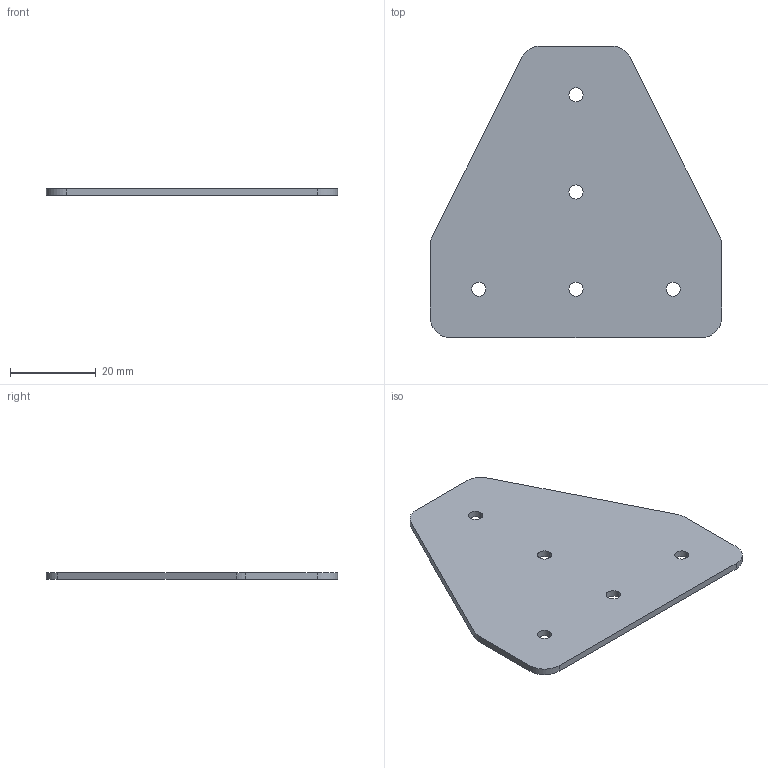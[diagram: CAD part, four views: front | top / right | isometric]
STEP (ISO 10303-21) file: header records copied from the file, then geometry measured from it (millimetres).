
FILE_DESCRIPTION (( 'STEP AP214' ), '1' );
FILE_NAME ('DRP-002-0008-03.step', '2010-06-23T19:11:16', ( '' ), ( '' ), 'SwSTEP 2.0', 'SolidWorks 2010', '' );
FILE_SCHEMA (( 'AUTOMOTIVE_DESIGN' ));
Length unit declared in the file: inch
Products named in the file (1): DRP-002-0008-03
Bounding box: 68.2 x 68.2 x 1.59 mm (x, y, z)
Volume: 5653.8 mm3; surface area: 7574.4 mm2
Topology: 1 solids, 1 shells, 24 faces, 66 edges, 44 vertices
Faces by surface type: cylinder 16, plane 8
Entity records: 842 total; most frequent: DIRECTION 148, CARTESIAN_POINT 135, ORIENTED_EDGE 132, EDGE_CURVE 66, AXIS2_PLACEMENT_3D 57, VERTEX_POINT 44, VECTOR 34, LINE 34
